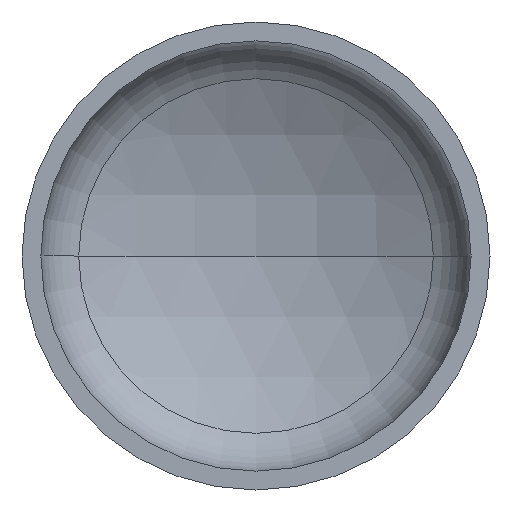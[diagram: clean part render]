
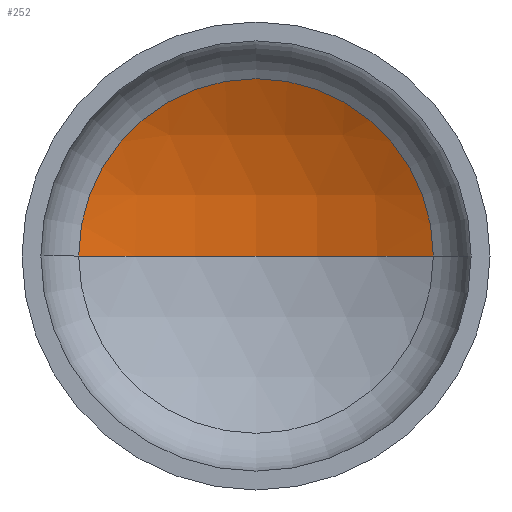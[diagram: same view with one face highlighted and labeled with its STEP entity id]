
A CAD part, front view. The second image highlights one B-rep face of the part: STEP entity #252.
In plain terms, the highlighted spherical face has radius 218 mm.
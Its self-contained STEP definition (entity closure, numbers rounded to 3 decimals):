
#5 = AXIS2_PLACEMENT_3D ( 'NONE', #93, #46, #98 ) ;
#7 = DIRECTION ( 'NONE',  ( 1., 0., 0. ) ) ;
#9 = DIRECTION ( 'NONE',  ( 0., -1., 0. ) ) ;
#11 = CARTESIAN_POINT ( 'NONE',  ( 0., 76.972, 0. ) ) ;
#20 = AXIS2_PLACEMENT_3D ( 'NONE', #43, #75, #92 ) ;
#32 = AXIS2_PLACEMENT_3D ( 'NONE', #217, #249, #195 ) ;
#36 = EDGE_LOOP ( 'NONE', ( #186, #261, #165 ) ) ;
#43 = CARTESIAN_POINT ( 'NONE',  ( 0., -114.931, 0. ) ) ;
#46 = DIRECTION ( 'NONE',  ( 0., 0., 1. ) ) ;
#47 = AXIS2_PLACEMENT_3D ( 'NONE', #11, #9, #7 ) ;
#75 = DIRECTION ( 'NONE',  ( 0., 0., -1. ) ) ;
#92 = DIRECTION ( 'NONE',  ( -1., 0., 0. ) ) ;
#93 = CARTESIAN_POINT ( 'NONE',  ( 0., -114.931, 0. ) ) ;
#98 = DIRECTION ( 'NONE',  ( 1., 0., 0. ) ) ;
#119 = EDGE_CURVE ( 'NONE', #389, #214, #286, .T. ) ;
#121 = CARTESIAN_POINT ( 'NONE',  ( 0., 103.069, 0. ) ) ;
#165 = ORIENTED_EDGE ( 'NONE', *, *, #119, .T. ) ;
#181 = VERTEX_POINT ( 'NONE', #121 ) ;
#186 = ORIENTED_EDGE ( 'NONE', *, *, #353, .F. ) ;
#195 = DIRECTION ( 'NONE',  ( -1., 0., 0. ) ) ;
#214 = VERTEX_POINT ( 'NONE', #241 ) ;
#217 = CARTESIAN_POINT ( 'NONE',  ( 0., -114.931, 0. ) ) ;
#241 = CARTESIAN_POINT ( 'NONE',  ( -103.426, 76.972, 0. ) ) ;
#249 = DIRECTION ( 'NONE',  ( 0., 0., -1. ) ) ;
#252 = ADVANCED_FACE ( 'NONE', ( #281 ), #343, .F. ) ;
#261 = ORIENTED_EDGE ( 'NONE', *, *, #349, .T. ) ;
#281 = FACE_OUTER_BOUND ( 'NONE', #36, .T. ) ;
#286 = CIRCLE ( 'NONE', #47, 103.426 ) ;
#312 = CIRCLE ( 'NONE', #5, 218. ) ;
#320 = CIRCLE ( 'NONE', #20, 218. ) ;
#322 = CARTESIAN_POINT ( 'NONE',  ( 103.426, 76.972, 0. ) ) ;
#343 = SPHERICAL_SURFACE ( 'NONE', #32, 218. ) ;
#349 = EDGE_CURVE ( 'NONE', #181, #389, #320, .T. ) ;
#353 = EDGE_CURVE ( 'NONE', #181, #214, #312, .T. ) ;
#389 = VERTEX_POINT ( 'NONE', #322 ) ;
